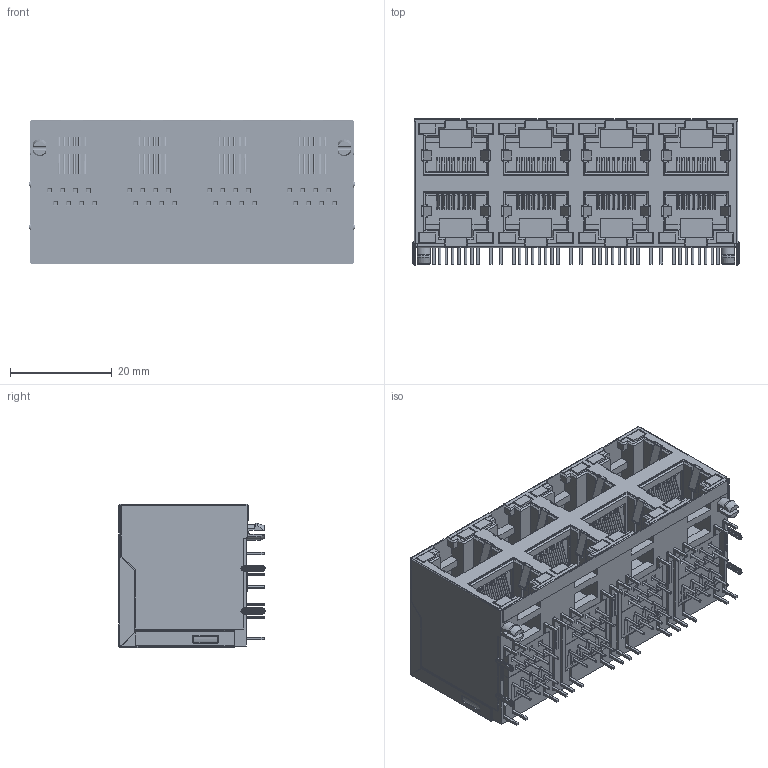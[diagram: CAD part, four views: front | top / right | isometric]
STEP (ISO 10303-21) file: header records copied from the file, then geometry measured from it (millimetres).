
FILE_DESCRIPTION((''),'2;1');
FILE_NAME('DGKYD59212488AB1A1DY1E022','2023-07-25T15:59:34',('Administrator'),(''),'CREO PARAMETRIC BY PTC INC, 2019010','CREO PARAMETRIC BY PTC INC, 2019010','');
FILE_SCHEMA(('CONFIG_CONTROL_DESIGN'));
Products named in the file (1): DGKYD59212488AB1A1DY1E022
Bounding box: 64.15 x 28.75 x 28.15 mm (x, y, z)
Volume: 26788.5 mm3; surface area: 43454.3 mm2
Topology: 145 solids, 147 shells, 4746 faces, 13078 edges, 8295 vertices
Faces by surface type: plane 3271, cylinder 1051, torus 280, cone 102, bspline 42
Entity records: 151861 total; most frequent: CARTESIAN_POINT 29275, ORIENTED_EDGE 26140, DIRECTION 24883, EDGE_CURVE 13078, VECTOR 9927, LINE 9927, VERTEX_POINT 8295, AXIS2_PLACEMENT_3D 7478
